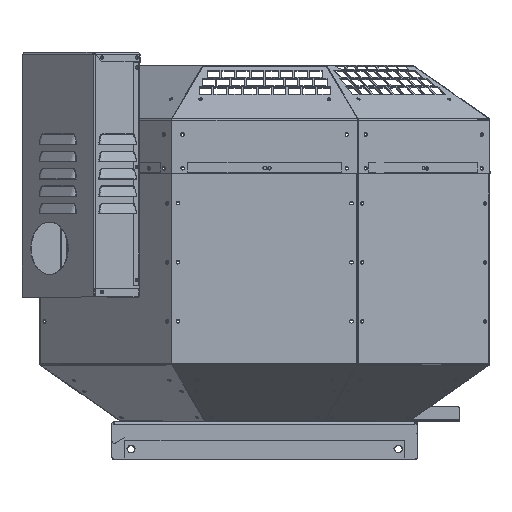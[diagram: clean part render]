
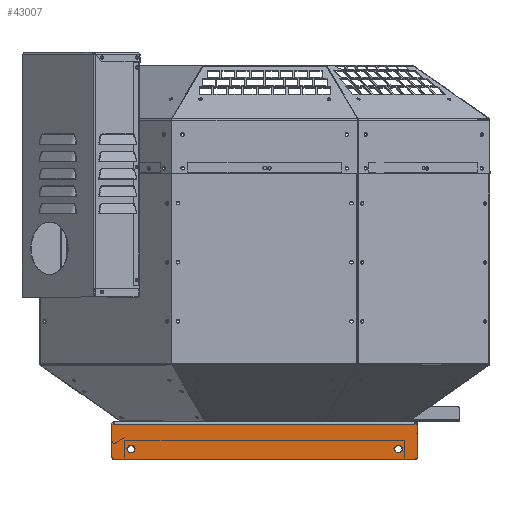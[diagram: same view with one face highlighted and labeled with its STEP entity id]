
A CAD part, top view. The second image highlights one B-rep face of the part: STEP entity #43007.
In plain terms, the highlighted planar face has unit normal (0, 0, 1).
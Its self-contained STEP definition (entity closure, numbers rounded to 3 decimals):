
#240 = VECTOR ( 'NONE', #40712, 1000. ) ;
#296 = EDGE_LOOP ( 'NONE', ( #72888, #76875, #83724, #39921, #20949, #68495, #9116, #82046 ) ) ;
#341 = DIRECTION ( 'NONE',  ( 0., 0., 1. ) ) ;
#3062 = DIRECTION ( 'NONE',  ( 0., 0., 1. ) ) ;
#3069 = DIRECTION ( 'NONE',  ( 0., -1., 0. ) ) ;
#3171 = EDGE_CURVE ( 'NONE', #54909, #16365, #63499, .T. ) ;
#4922 = VECTOR ( 'NONE', #36112, 1000. ) ;
#8066 = VERTEX_POINT ( 'NONE', #66878 ) ;
#9026 = EDGE_CURVE ( 'NONE', #53768, #22475, #70683, .T. ) ;
#9116 = ORIENTED_EDGE ( 'NONE', *, *, #62734, .T. ) ;
#9136 = EDGE_CURVE ( 'NONE', #46592, #12477, #79036, .T. ) ;
#9308 = DIRECTION ( 'NONE',  ( 1., 0., 0. ) ) ;
#9314 = ORIENTED_EDGE ( 'NONE', *, *, #50282, .F. ) ;
#9707 = LINE ( 'NONE', #68762, #60122 ) ;
#10453 = FACE_OUTER_BOUND ( 'NONE', #296, .T. ) ;
#11408 = VERTEX_POINT ( 'NONE', #64909 ) ;
#12058 = EDGE_CURVE ( 'NONE', #53768, #70893, #9707, .T. ) ;
#12477 = VERTEX_POINT ( 'NONE', #69762 ) ;
#14192 = EDGE_CURVE ( 'NONE', #57532, #61845, #33030, .T. ) ;
#14360 = VECTOR ( 'NONE', #39726, 1000. ) ;
#16213 = PLANE ( 'NONE',  #77084 ) ;
#16365 = VERTEX_POINT ( 'NONE', #45000 ) ;
#17284 = CIRCLE ( 'NONE', #65437, 4.5 ) ;
#17320 = DIRECTION ( 'NONE',  ( 0., 0., 1. ) ) ;
#17522 = CARTESIAN_POINT ( 'NONE',  ( 178.525, -41.682, 170.3 ) ) ;
#20949 = ORIENTED_EDGE ( 'NONE', *, *, #9026, .T. ) ;
#22220 = LINE ( 'NONE', #72710, #24257 ) ;
#22475 = VERTEX_POINT ( 'NONE', #65439 ) ;
#23357 = DIRECTION ( 'NONE',  ( 0., 0., 1. ) ) ;
#23747 = FACE_BOUND ( 'NONE', #40540, .T. ) ;
#24257 = VECTOR ( 'NONE', #59529, 1000. ) ;
#24884 = VECTOR ( 'NONE', #54455, 1000. ) ;
#25834 = FACE_BOUND ( 'NONE', #38685, .T. ) ;
#26768 = DIRECTION ( 'NONE',  ( 0., -1., 0. ) ) ;
#29857 = AXIS2_PLACEMENT_3D ( 'NONE', #78594, #45166, #60657 ) ;
#32477 = CARTESIAN_POINT ( 'NONE',  ( 178.125, -3.632, 170.3 ) ) ;
#32987 = EDGE_CURVE ( 'NONE', #46592, #11408, #77361, .T. ) ;
#33030 = CIRCLE ( 'NONE', #69404, 4.5 ) ;
#33104 = CARTESIAN_POINT ( 'NONE',  ( -169.025, -3.632, 170.3 ) ) ;
#34600 = CARTESIAN_POINT ( 'NONE',  ( -158.5, -37.232, 170.3 ) ) ;
#36112 = DIRECTION ( 'NONE',  ( -1., 0., 0. ) ) ;
#36170 = CIRCLE ( 'NONE', #72460, 3. ) ;
#37742 = CARTESIAN_POINT ( 'NONE',  ( 158.5, -32.732, 170.3 ) ) ;
#38343 = CARTESIAN_POINT ( 'NONE',  ( 178.525, -44.682, 170.3 ) ) ;
#38480 = CARTESIAN_POINT ( 'NONE',  ( -181.525, -41.682, 170.3 ) ) ;
#38685 = EDGE_LOOP ( 'NONE', ( #9314, #69162 ) ) ;
#39646 = CARTESIAN_POINT ( 'NONE',  ( 158.5, -32.732, 170.3 ) ) ;
#39726 = DIRECTION ( 'NONE',  ( -1., 0., 0. ) ) ;
#39812 = CARTESIAN_POINT ( 'NONE',  ( 158.5, -28.232, 170.3 ) ) ;
#39921 = ORIENTED_EDGE ( 'NONE', *, *, #12058, .F. ) ;
#40375 = AXIS2_PLACEMENT_3D ( 'NONE', #39646, #341, #46268 ) ;
#40540 = EDGE_LOOP ( 'NONE', ( #44783, #59414 ) ) ;
#40712 = DIRECTION ( 'NONE',  ( 0., -1., 0. ) ) ;
#41314 = CIRCLE ( 'NONE', #40375, 4.5 ) ;
#42361 = DIRECTION ( 'NONE',  ( 0., 0., 1. ) ) ;
#42616 = DIRECTION ( 'NONE',  ( 0., -1., 0. ) ) ;
#43007 = ADVANCED_FACE ( 'NONE', ( #25834, #23747, #10453 ), #16213, .T. ) ;
#43064 = LINE ( 'NONE', #33104, #14360 ) ;
#43685 = VERTEX_POINT ( 'NONE', #38480 ) ;
#43802 = AXIS2_PLACEMENT_3D ( 'NONE', #17522, #23357, #26768 ) ;
#44783 = ORIENTED_EDGE ( 'NONE', *, *, #3171, .F. ) ;
#45000 = CARTESIAN_POINT ( 'NONE',  ( -158.5, -28.232, 170.3 ) ) ;
#45166 = DIRECTION ( 'NONE',  ( 0., 0., 1. ) ) ;
#46041 = CARTESIAN_POINT ( 'NONE',  ( -169.025, -3.632, 170.3 ) ) ;
#46268 = DIRECTION ( 'NONE',  ( 0., -1., 0. ) ) ;
#46592 = VERTEX_POINT ( 'NONE', #38343 ) ;
#47799 = CARTESIAN_POINT ( 'NONE',  ( -169.025, -44.682, 170.3 ) ) ;
#50282 = EDGE_CURVE ( 'NONE', #61845, #57532, #41314, .T. ) ;
#53768 = VERTEX_POINT ( 'NONE', #32477 ) ;
#54455 = DIRECTION ( 'NONE',  ( -1., 0., 0. ) ) ;
#54909 = VERTEX_POINT ( 'NONE', #34600 ) ;
#55089 = EDGE_CURVE ( 'NONE', #43685, #11408, #36170, .T. ) ;
#56352 = DIRECTION ( 'NONE',  ( 0., -1., 0. ) ) ;
#56661 = CARTESIAN_POINT ( 'NONE',  ( -178.525, -41.682, 170.3 ) ) ;
#57532 = VERTEX_POINT ( 'NONE', #39812 ) ;
#59414 = ORIENTED_EDGE ( 'NONE', *, *, #80443, .F. ) ;
#59529 = DIRECTION ( 'NONE',  ( 0., -1., 0. ) ) ;
#60122 = VECTOR ( 'NONE', #9308, 1000. ) ;
#60657 = DIRECTION ( 'NONE',  ( 0., -1., 0. ) ) ;
#61651 = EDGE_CURVE ( 'NONE', #22475, #8066, #43064, .T. ) ;
#61845 = VERTEX_POINT ( 'NONE', #82204 ) ;
#62181 = CARTESIAN_POINT ( 'NONE',  ( -169.025, -1.732, 170.3 ) ) ;
#62734 = EDGE_CURVE ( 'NONE', #8066, #43685, #22220, .T. ) ;
#63263 = DIRECTION ( 'NONE',  ( 0., -1., 0. ) ) ;
#63499 = CIRCLE ( 'NONE', #29857, 4.5 ) ;
#64909 = CARTESIAN_POINT ( 'NONE',  ( -178.525, -44.682, 170.3 ) ) ;
#65437 = AXIS2_PLACEMENT_3D ( 'NONE', #81730, #42361, #3069 ) ;
#65439 = CARTESIAN_POINT ( 'NONE',  ( -178.125, -3.632, 170.3 ) ) ;
#66878 = CARTESIAN_POINT ( 'NONE',  ( -181.525, -3.632, 170.3 ) ) ;
#68048 = LINE ( 'NONE', #68291, #240 ) ;
#68291 = CARTESIAN_POINT ( 'NONE',  ( 181.525, -3.632, 170.3 ) ) ;
#68495 = ORIENTED_EDGE ( 'NONE', *, *, #61651, .T. ) ;
#68762 = CARTESIAN_POINT ( 'NONE',  ( 169.025, -3.632, 170.3 ) ) ;
#69162 = ORIENTED_EDGE ( 'NONE', *, *, #14192, .F. ) ;
#69404 = AXIS2_PLACEMENT_3D ( 'NONE', #37742, #3062, #56352 ) ;
#69762 = CARTESIAN_POINT ( 'NONE',  ( 181.525, -41.682, 170.3 ) ) ;
#70683 = LINE ( 'NONE', #46041, #4922 ) ;
#70893 = VERTEX_POINT ( 'NONE', #71061 ) ;
#71061 = CARTESIAN_POINT ( 'NONE',  ( 181.525, -3.632, 170.3 ) ) ;
#72460 = AXIS2_PLACEMENT_3D ( 'NONE', #56661, #17320, #63263 ) ;
#72710 = CARTESIAN_POINT ( 'NONE',  ( -181.525, -3.632, 170.3 ) ) ;
#72888 = ORIENTED_EDGE ( 'NONE', *, *, #32987, .F. ) ;
#74935 = EDGE_CURVE ( 'NONE', #70893, #12477, #68048, .T. ) ;
#76875 = ORIENTED_EDGE ( 'NONE', *, *, #9136, .T. ) ;
#77084 = AXIS2_PLACEMENT_3D ( 'NONE', #62181, #82004, #42616 ) ;
#77361 = LINE ( 'NONE', #47799, #24884 ) ;
#78594 = CARTESIAN_POINT ( 'NONE',  ( -158.5, -32.732, 170.3 ) ) ;
#79036 = CIRCLE ( 'NONE', #43802, 3. ) ;
#80443 = EDGE_CURVE ( 'NONE', #16365, #54909, #17284, .T. ) ;
#81730 = CARTESIAN_POINT ( 'NONE',  ( -158.5, -32.732, 170.3 ) ) ;
#82004 = DIRECTION ( 'NONE',  ( 0., 0., 1. ) ) ;
#82046 = ORIENTED_EDGE ( 'NONE', *, *, #55089, .T. ) ;
#82204 = CARTESIAN_POINT ( 'NONE',  ( 158.5, -37.232, 170.3 ) ) ;
#83724 = ORIENTED_EDGE ( 'NONE', *, *, #74935, .F. ) ;
